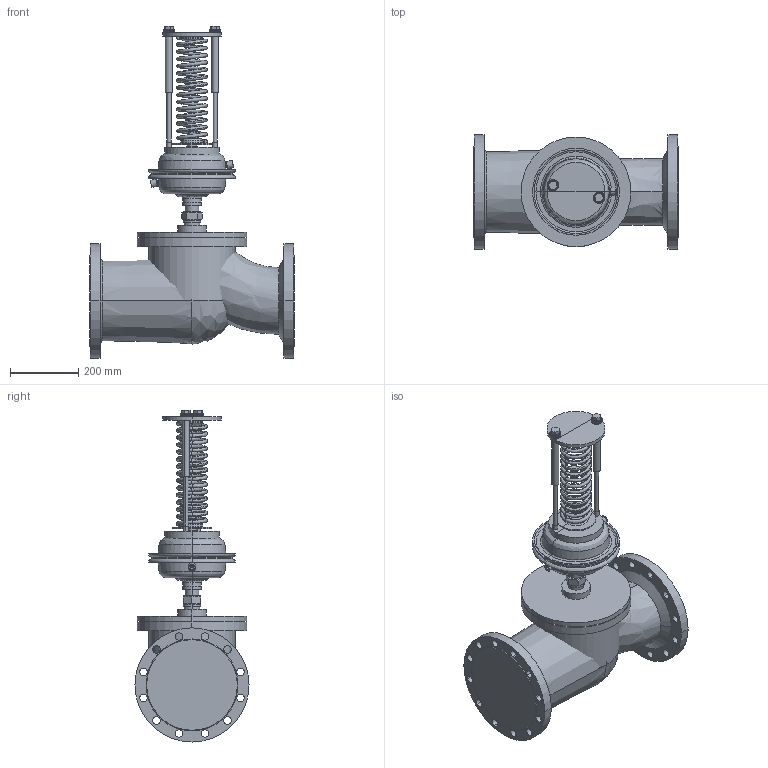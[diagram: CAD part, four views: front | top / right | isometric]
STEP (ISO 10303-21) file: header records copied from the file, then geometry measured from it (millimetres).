
FILE_DESCRIPTION(/* description */ (''),/* implementation_level */ '2;1');
FILE_NAME(/* name */ 'ETM_Регулятордавления_УРРД_НЗ_РД_DN200',/* time_stamp */ '2026-04-18T14:57:23+03:00',/* author */ (''),/* organization */ (''),/* preprocessor_version */ 'ST-DEVELOPER v20',/* originating_system */ '',/* authorisation */ '');
FILE_SCHEMA (('AP242_MANAGED_MODEL_BASED_3D_ENGINEERING_MIM_LF { 1 0 10303 442 1 1 4 }'));
Length unit declared in the file: millimetre
Products named in the file (13): TopLevelAssembly; Выдавливание; Переход; Выдавливание_
1; Переход_1; Переход_2; Переход_3; Объемная геометрия 
присоединена; Выдавливание_
2; Выдавливание_
3; Объемная геометрия 
присоединена_1; Выдавливание_
4; Пружина желтая
Assembly tree (12 placements, depth 2):
  TopLevelAssembly
    Выдавливание
    Переход
    Выдавливание_
1
    Переход_1
    Переход_2
    Переход_3
    Объемная геометрия 
присоединена
    Выдавливание_
2
    Выдавливание_
3
    Объемная геометрия 
присоединена_1
    Выдавливание_
4
    Пружина желтая
Bounding box: 600 x 335 x 974.61 mm (x, y, z)
Volume: 48598774.9 mm3; surface area: 2546422.4 mm2
Topology: 33 solids, 33 shells, 538 faces, 1126 edges, 592 vertices
Faces by surface type: bspline 191, plane 183, cylinder 154, cone 10
Entity records: 17709 total; most frequent: CARTESIAN_POINT 5999, DIRECTION 2484, ORIENTED_EDGE 2160, EDGE_CURVE 1080, AXIS2_PLACEMENT_3D 1056, CIRCLE 683, VERTEX_POINT 592, EDGE_LOOP 590
